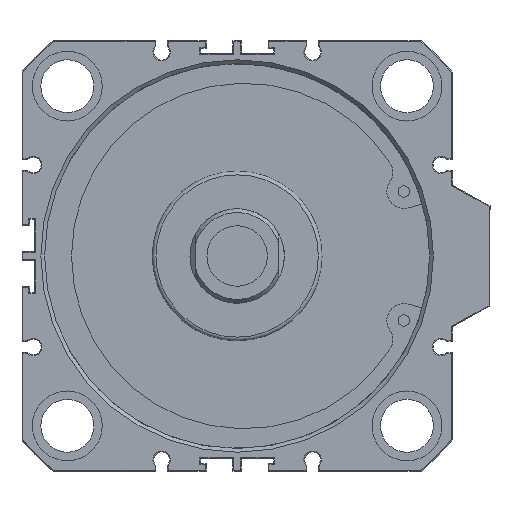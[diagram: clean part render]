
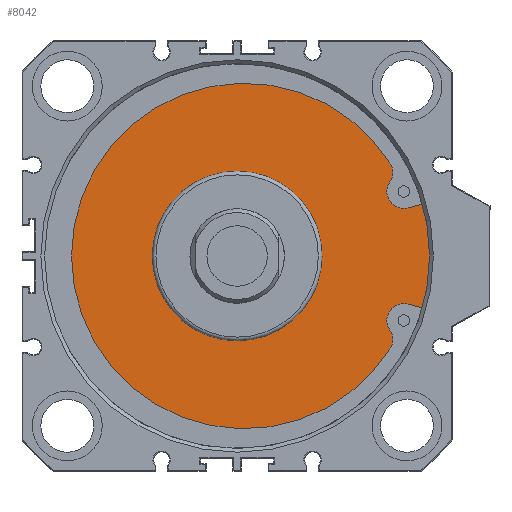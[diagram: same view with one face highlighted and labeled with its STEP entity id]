
A CAD part, front view. The second image highlights one B-rep face of the part: STEP entity #8042.
In plain terms, the highlighted planar face has unit normal (0, -1, 0).
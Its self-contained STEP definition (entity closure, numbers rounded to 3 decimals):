
#274=CIRCLE('',#8541,53.);
#275=CIRCLE('',#8543,4.5);
#276=CIRCLE('',#8544,4.5);
#277=CIRCLE('',#8545,45.77);
#278=CIRCLE('',#8546,4.5);
#279=CIRCLE('',#8547,4.5);
#280=CIRCLE('',#8548,22.5);
#699=LINE('',#11531,#1279);
#700=LINE('',#11543,#1280);
#1279=VECTOR('',#9723,1000.);
#1280=VECTOR('',#9734,1000.);
#2122=ORIENTED_EDGE('',*,*,#3525,.T.);
#2123=ORIENTED_EDGE('',*,*,#3526,.T.);
#2124=ORIENTED_EDGE('',*,*,#3527,.T.);
#2125=ORIENTED_EDGE('',*,*,#3528,.T.);
#2126=ORIENTED_EDGE('',*,*,#3529,.T.);
#2127=ORIENTED_EDGE('',*,*,#3530,.T.);
#2128=ORIENTED_EDGE('',*,*,#3531,.T.);
#2129=ORIENTED_EDGE('',*,*,#3523,.F.);
#2130=ORIENTED_EDGE('',*,*,#3532,.F.);
#3523=EDGE_CURVE('',#4189,#4190,#274,.T.);
#3525=EDGE_CURVE('',#4189,#4191,#699,.T.);
#3526=EDGE_CURVE('',#4191,#4192,#275,.T.);
#3527=EDGE_CURVE('',#4192,#4193,#276,.T.);
#3528=EDGE_CURVE('',#4193,#4194,#277,.T.);
#3529=EDGE_CURVE('',#4194,#4195,#278,.T.);
#3530=EDGE_CURVE('',#4195,#4196,#279,.T.);
#3531=EDGE_CURVE('',#4196,#4190,#700,.T.);
#3532=EDGE_CURVE('',#4197,#4197,#280,.T.);
#4189=VERTEX_POINT('',#11526);
#4190=VERTEX_POINT('',#11528);
#4191=VERTEX_POINT('',#11532);
#4192=VERTEX_POINT('',#11534);
#4193=VERTEX_POINT('',#11536);
#4194=VERTEX_POINT('',#11538);
#4195=VERTEX_POINT('',#11540);
#4196=VERTEX_POINT('',#11542);
#4197=VERTEX_POINT('',#11545);
#4424=EDGE_LOOP('',(#2122,#2123,#2124,#2125,#2126,#2127,#2128,#2129));
#4425=EDGE_LOOP('',(#2130));
#4848=FACE_BOUND('',#4424,.T.);
#4849=FACE_BOUND('',#4425,.T.);
#5185=PLANE('',#8542);
#8042=ADVANCED_FACE('',(#4848,#4849),#5185,.T.);
#8541=AXIS2_PLACEMENT_3D('',#11527,#9718,#9719);
#8542=AXIS2_PLACEMENT_3D('',#11530,#9721,#9722);
#8543=AXIS2_PLACEMENT_3D('',#11533,#9724,#9725);
#8544=AXIS2_PLACEMENT_3D('',#11535,#9726,#9727);
#8545=AXIS2_PLACEMENT_3D('',#11537,#9728,#9729);
#8546=AXIS2_PLACEMENT_3D('',#11539,#9730,#9731);
#8547=AXIS2_PLACEMENT_3D('',#11541,#9732,#9733);
#8548=AXIS2_PLACEMENT_3D('',#11544,#9735,#9736);
#9718=DIRECTION('',(0.,1.,0.));
#9719=DIRECTION('',(-1.,0.,0.));
#9721=DIRECTION('',(0.,-1.,0.));
#9722=DIRECTION('',(1.,0.,0.));
#9723=DIRECTION('',(-0.966,0.,-0.259));
#9724=DIRECTION('',(0.,1.,0.));
#9725=DIRECTION('',(1.,0.,0.));
#9726=DIRECTION('',(0.,-1.,0.));
#9727=DIRECTION('',(-1.,0.,0.));
#9728=DIRECTION('',(0.,-1.,0.));
#9729=DIRECTION('',(1.,0.,0.));
#9730=DIRECTION('',(0.,-1.,0.));
#9731=DIRECTION('',(-1.,0.,0.));
#9732=DIRECTION('',(0.,1.,0.));
#9733=DIRECTION('',(1.,0.,0.));
#9734=DIRECTION('',(0.966,0.,-0.259));
#9735=DIRECTION('',(0.,-1.,0.));
#9736=DIRECTION('',(1.,0.,0.));
#11526=CARTESIAN_POINT('',(51.039,8.,14.283));
#11527=CARTESIAN_POINT('',(0.,8.,0.));
#11528=CARTESIAN_POINT('',(51.039,8.,-14.283));
#11530=CARTESIAN_POINT('',(0.,8.,-53.));
#11531=CARTESIAN_POINT('',(51.039,8.,14.283));
#11532=CARTESIAN_POINT('',(45.35,8.,12.758));
#11533=CARTESIAN_POINT('',(44.185,8.,17.105));
#11534=CARTESIAN_POINT('',(40.45,8.,19.615));
#11535=CARTESIAN_POINT('',(36.73,8.,22.147));
#11536=CARTESIAN_POINT('',(40.642,8.,24.372));
#11537=CARTESIAN_POINT('',(1.9,8.,0.));
#11538=CARTESIAN_POINT('',(40.642,8.,-24.372));
#11539=CARTESIAN_POINT('',(36.73,8.,-22.147));
#11540=CARTESIAN_POINT('',(40.45,8.,-19.615));
#11541=CARTESIAN_POINT('',(44.185,8.,-17.105));
#11542=CARTESIAN_POINT('',(45.35,8.,-12.758));
#11543=CARTESIAN_POINT('',(45.35,8.,-12.758));
#11544=CARTESIAN_POINT('',(0.,8.,0.));
#11545=CARTESIAN_POINT('',(22.5,8.,0.));
